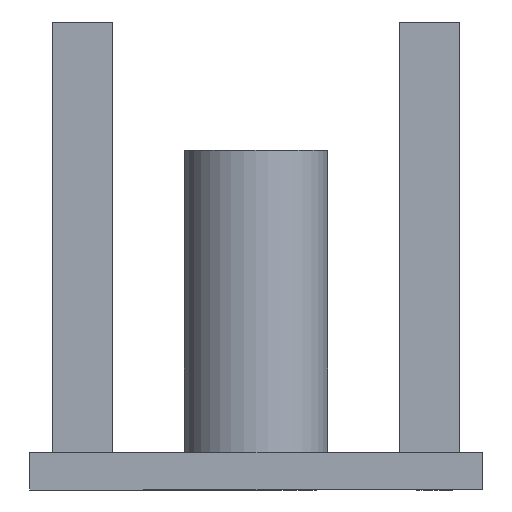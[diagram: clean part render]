
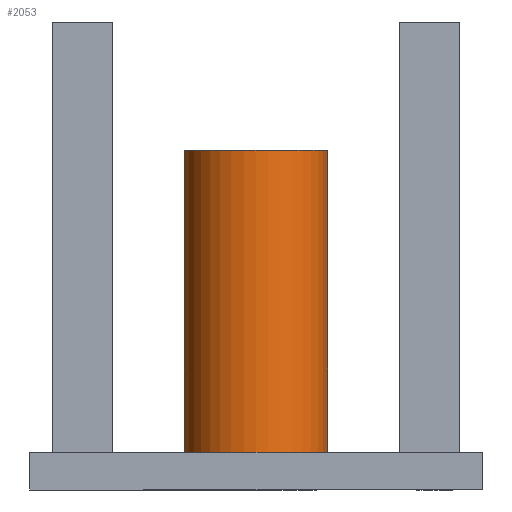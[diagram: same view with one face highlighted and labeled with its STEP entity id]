
A CAD part, left-side view. The second image highlights one B-rep face of the part: STEP entity #2053.
In plain terms, the highlighted cylindrical face has radius 9.5 mm (diameter 19 mm), a full revolution.
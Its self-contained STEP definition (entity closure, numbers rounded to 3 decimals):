
#72 = PLANE('',#73);
#73 = AXIS2_PLACEMENT_3D('',#74,#75,#76);
#74 = CARTESIAN_POINT('',(-50.,30.,5.));
#75 = DIRECTION('',(0.,0.,-1.));
#76 = DIRECTION('',(1.,0.,0.));
#833 = EDGE_CURVE('',#834,#834,#836,.T.);
#834 = VERTEX_POINT('',#835);
#835 = CARTESIAN_POINT('',(-25.,0.,5.));
#836 = SURFACE_CURVE('',#837,(#842,#853),.PCURVE_S1.);
#837 = CIRCLE('',#838,9.5);
#838 = AXIS2_PLACEMENT_3D('',#839,#840,#841);
#839 = CARTESIAN_POINT('',(-34.5,0.,5.));
#840 = DIRECTION('',(-0.,0.,1.));
#841 = DIRECTION('',(1.,0.,0.));
#842 = PCURVE('',#72,#843);
#843 = DEFINITIONAL_REPRESENTATION('',(#844),#852);
#844 = ( BOUNDED_CURVE() B_SPLINE_CURVE(2,(#845,#846,#847,#848,#849,#850
,#851),.UNSPECIFIED.,.T.,.F.) B_SPLINE_CURVE_WITH_KNOTS((1,2,2,2,2,1),(
    -2.094,0.,2.094,4.189,6.283,
8.378),.UNSPECIFIED.) CURVE() GEOMETRIC_REPRESENTATION_ITEM() 
RATIONAL_B_SPLINE_CURVE((1.,0.5,1.,0.5,1.,0.5,1.)) REPRESENTATION_ITEM(
  '') );
#845 = CARTESIAN_POINT('',(25.,30.));
#846 = CARTESIAN_POINT('',(25.,13.546));
#847 = CARTESIAN_POINT('',(10.75,21.773));
#848 = CARTESIAN_POINT('',(-3.5,30.));
#849 = CARTESIAN_POINT('',(10.75,38.227));
#850 = CARTESIAN_POINT('',(25.,46.454));
#851 = CARTESIAN_POINT('',(25.,30.));
#852 = ( GEOMETRIC_REPRESENTATION_CONTEXT(2) 
PARAMETRIC_REPRESENTATION_CONTEXT() REPRESENTATION_CONTEXT('2D SPACE',''
  ) );
#853 = PCURVE('',#854,#859);
#854 = CYLINDRICAL_SURFACE('',#855,9.5);
#855 = AXIS2_PLACEMENT_3D('',#856,#857,#858);
#856 = CARTESIAN_POINT('',(-34.5,0.,45.));
#857 = DIRECTION('',(-0.,0.,1.));
#858 = DIRECTION('',(1.,0.,0.));
#859 = DEFINITIONAL_REPRESENTATION('',(#860),#864);
#860 = LINE('',#861,#862);
#861 = CARTESIAN_POINT('',(-6.283,-40.));
#862 = VECTOR('',#863,1.);
#863 = DIRECTION('',(1.,-0.));
#864 = ( GEOMETRIC_REPRESENTATION_CONTEXT(2) 
PARAMETRIC_REPRESENTATION_CONTEXT() REPRESENTATION_CONTEXT('2D SPACE',''
  ) );
#2053 = ADVANCED_FACE('',(#2054),#854,.T.);
#2054 = FACE_BOUND('',#2055,.F.);
#2055 = EDGE_LOOP('',(#2056,#2085,#2106,#2107));
#2056 = ORIENTED_EDGE('',*,*,#2057,.F.);
#2057 = EDGE_CURVE('',#2058,#2058,#2060,.T.);
#2058 = VERTEX_POINT('',#2059);
#2059 = CARTESIAN_POINT('',(-25.,0.,45.));
#2060 = SURFACE_CURVE('',#2061,(#2066,#2073),.PCURVE_S1.);
#2061 = CIRCLE('',#2062,9.5);
#2062 = AXIS2_PLACEMENT_3D('',#2063,#2064,#2065);
#2063 = CARTESIAN_POINT('',(-34.5,0.,45.));
#2064 = DIRECTION('',(0.,0.,-1.));
#2065 = DIRECTION('',(1.,0.,0.));
#2066 = PCURVE('',#854,#2067);
#2067 = DEFINITIONAL_REPRESENTATION('',(#2068),#2072);
#2068 = LINE('',#2069,#2070);
#2069 = CARTESIAN_POINT('',(-0.,0.));
#2070 = VECTOR('',#2071,1.);
#2071 = DIRECTION('',(-1.,0.));
#2072 = ( GEOMETRIC_REPRESENTATION_CONTEXT(2) 
PARAMETRIC_REPRESENTATION_CONTEXT() REPRESENTATION_CONTEXT('2D SPACE',''
  ) );
#2073 = PCURVE('',#2074,#2079);
#2074 = PLANE('',#2075);
#2075 = AXIS2_PLACEMENT_3D('',#2076,#2077,#2078);
#2076 = CARTESIAN_POINT('',(-34.5,0.,45.));
#2077 = DIRECTION('',(0.,0.,-1.));
#2078 = DIRECTION('',(1.,0.,0.));
#2079 = DEFINITIONAL_REPRESENTATION('',(#2080),#2084);
#2080 = CIRCLE('',#2081,9.5);
#2081 = AXIS2_PLACEMENT_2D('',#2082,#2083);
#2082 = CARTESIAN_POINT('',(0.,0.));
#2083 = DIRECTION('',(1.,0.));
#2084 = ( GEOMETRIC_REPRESENTATION_CONTEXT(2) 
PARAMETRIC_REPRESENTATION_CONTEXT() REPRESENTATION_CONTEXT('2D SPACE',''
  ) );
#2085 = ORIENTED_EDGE('',*,*,#2086,.T.);
#2086 = EDGE_CURVE('',#2058,#834,#2087,.T.);
#2087 = SEAM_CURVE('',#2088,(#2092,#2099),.PCURVE_S1.);
#2088 = LINE('',#2089,#2090);
#2089 = CARTESIAN_POINT('',(-25.,0.,45.));
#2090 = VECTOR('',#2091,1.);
#2091 = DIRECTION('',(0.,0.,-1.));
#2092 = PCURVE('',#854,#2093);
#2093 = DEFINITIONAL_REPRESENTATION('',(#2094),#2098);
#2094 = LINE('',#2095,#2096);
#2095 = CARTESIAN_POINT('',(-6.283,0.));
#2096 = VECTOR('',#2097,1.);
#2097 = DIRECTION('',(-0.,-1.));
#2098 = ( GEOMETRIC_REPRESENTATION_CONTEXT(2) 
PARAMETRIC_REPRESENTATION_CONTEXT() REPRESENTATION_CONTEXT('2D SPACE',''
  ) );
#2099 = PCURVE('',#854,#2100);
#2100 = DEFINITIONAL_REPRESENTATION('',(#2101),#2105);
#2101 = LINE('',#2102,#2103);
#2102 = CARTESIAN_POINT('',(-0.,0.));
#2103 = VECTOR('',#2104,1.);
#2104 = DIRECTION('',(-0.,-1.));
#2105 = ( GEOMETRIC_REPRESENTATION_CONTEXT(2) 
PARAMETRIC_REPRESENTATION_CONTEXT() REPRESENTATION_CONTEXT('2D SPACE',''
  ) );
#2106 = ORIENTED_EDGE('',*,*,#833,.F.);
#2107 = ORIENTED_EDGE('',*,*,#2086,.F.);
